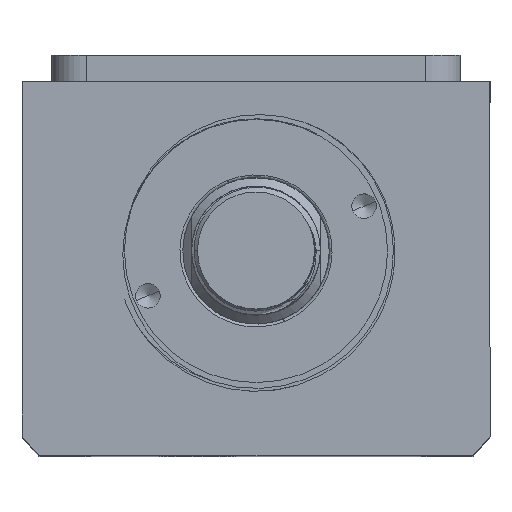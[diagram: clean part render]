
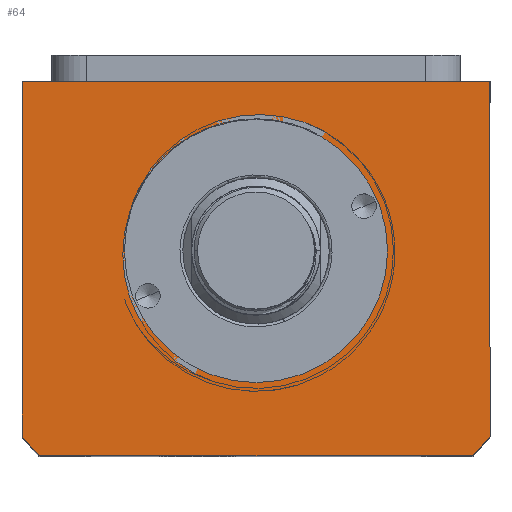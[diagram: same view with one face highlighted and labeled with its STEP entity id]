
A CAD part, top view. The second image highlights one B-rep face of the part: STEP entity #64.
In plain terms, the highlighted planar face has unit normal (0, 0, 1).
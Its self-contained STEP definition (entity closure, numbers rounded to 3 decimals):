
#64 = ADVANCED_FACE ( 'NONE', ( #10630, #2380 ), #4200, .T. ) ;
#337 = EDGE_CURVE ( 'NONE', #2623, #2714, #8283, .T. ) ;
#410 = VERTEX_POINT ( 'NONE', #12184 ) ;
#605 = ORIENTED_EDGE ( 'NONE', *, *, #4922, .T. ) ;
#681 = VERTEX_POINT ( 'NONE', #6568 ) ;
#746 = ORIENTED_EDGE ( 'NONE', *, *, #11252, .T. ) ;
#973 = DIRECTION ( 'NONE',  ( 1., 0., 0. ) ) ;
#1245 = DIRECTION ( 'NONE',  ( 1., 0., 0. ) ) ;
#1436 = ORIENTED_EDGE ( 'NONE', *, *, #3963, .T. ) ;
#1851 = AXIS2_PLACEMENT_3D ( 'NONE', #10524, #4075, #11598 ) ;
#2380 = FACE_OUTER_BOUND ( 'NONE', #4471, .T. ) ;
#2623 = VERTEX_POINT ( 'NONE', #13380 ) ;
#2714 = VERTEX_POINT ( 'NONE', #13415 ) ;
#3418 = CARTESIAN_POINT ( 'NONE',  ( -40., -32., 100. ) ) ;
#3716 = CARTESIAN_POINT ( 'NONE',  ( -40., 32., 100. ) ) ;
#3924 = DIRECTION ( 'NONE',  ( 1., 0., 0. ) ) ;
#3963 = EDGE_CURVE ( 'NONE', #10633, #410, #13226, .T. ) ;
#4005 = VECTOR ( 'NONE', #8529, 1000. ) ;
#4075 = DIRECTION ( 'NONE',  ( 0., 0., 1. ) ) ;
#4158 = LINE ( 'NONE', #5966, #12709 ) ;
#4200 = PLANE ( 'NONE',  #4394 ) ;
#4253 = CARTESIAN_POINT ( 'NONE',  ( 0., 0., 100. ) ) ;
#4394 = AXIS2_PLACEMENT_3D ( 'NONE', #4253, #7021, #3924 ) ;
#4396 = LINE ( 'NONE', #9898, #9463 ) ;
#4471 = EDGE_LOOP ( 'NONE', ( #5619, #10114, #605, #10323, #1436, #746 ) ) ;
#4501 = EDGE_CURVE ( 'NONE', #11482, #2623, #4158, .T. ) ;
#4840 = AXIS2_PLACEMENT_3D ( 'NONE', #9585, #10608, #973 ) ;
#4872 = ORIENTED_EDGE ( 'NONE', *, *, #7044, .F. ) ;
#4922 = EDGE_CURVE ( 'NONE', #2714, #681, #7191, .T. ) ;
#5028 = DIRECTION ( 'NONE',  ( 0., 0., 1. ) ) ;
#5619 = ORIENTED_EDGE ( 'NONE', *, *, #4501, .T. ) ;
#5666 = CARTESIAN_POINT ( 'NONE',  ( 0., 3., 100. ) ) ;
#5966 = CARTESIAN_POINT ( 'NONE',  ( -40., 32., 100. ) ) ;
#5977 = CARTESIAN_POINT ( 'NONE',  ( -22.5, 3., 100. ) ) ;
#6094 = VERTEX_POINT ( 'NONE', #5977 ) ;
#6568 = CARTESIAN_POINT ( 'NONE',  ( 37.094, -32., 100. ) ) ;
#6737 = DIRECTION ( 'NONE',  ( 1., 0., 0. ) ) ;
#6846 = VECTOR ( 'NONE', #1245, 1000. ) ;
#7021 = DIRECTION ( 'NONE',  ( 0., 0., 1. ) ) ;
#7044 = EDGE_CURVE ( 'NONE', #8038, #6094, #9145, .T. ) ;
#7056 = AXIS2_PLACEMENT_3D ( 'NONE', #11490, #5028, #12532 ) ;
#7191 = LINE ( 'NONE', #3418, #6846 ) ;
#7428 = CARTESIAN_POINT ( 'NONE',  ( 40., -28.639, 100. ) ) ;
#8038 = VERTEX_POINT ( 'NONE', #13058 ) ;
#8283 = CIRCLE ( 'NONE', #4840, 51. ) ;
#8529 = DIRECTION ( 'NONE',  ( 0., 1., 0. ) ) ;
#8772 = CIRCLE ( 'NONE', #13750, 51. ) ;
#9145 = CIRCLE ( 'NONE', #7056, 22.5 ) ;
#9264 = EDGE_CURVE ( 'NONE', #6094, #8038, #10638, .T. ) ;
#9463 = VECTOR ( 'NONE', #10995, 1000. ) ;
#9549 = CARTESIAN_POINT ( 'NONE',  ( 40., 32., 100. ) ) ;
#9585 = CARTESIAN_POINT ( 'NONE',  ( 0., 3., 100. ) ) ;
#9898 = CARTESIAN_POINT ( 'NONE',  ( -40., 32., 100. ) ) ;
#10114 = ORIENTED_EDGE ( 'NONE', *, *, #337, .T. ) ;
#10323 = ORIENTED_EDGE ( 'NONE', *, *, #12608, .T. ) ;
#10524 = CARTESIAN_POINT ( 'NONE',  ( 0., 3., 100. ) ) ;
#10608 = DIRECTION ( 'NONE',  ( 0., 0., 1. ) ) ;
#10630 = FACE_BOUND ( 'NONE', #11520, .T. ) ;
#10633 = VERTEX_POINT ( 'NONE', #7428 ) ;
#10638 = CIRCLE ( 'NONE', #1851, 22.5 ) ;
#10995 = DIRECTION ( 'NONE',  ( -1., 0., 0. ) ) ;
#11252 = EDGE_CURVE ( 'NONE', #410, #11482, #4396, .T. ) ;
#11273 = DIRECTION ( 'NONE',  ( 0., -1., 0. ) ) ;
#11308 = ORIENTED_EDGE ( 'NONE', *, *, #9264, .F. ) ;
#11482 = VERTEX_POINT ( 'NONE', #3716 ) ;
#11490 = CARTESIAN_POINT ( 'NONE',  ( 0., 3., 100. ) ) ;
#11520 = EDGE_LOOP ( 'NONE', ( #4872, #11308 ) ) ;
#11598 = DIRECTION ( 'NONE',  ( 1., 0., 0. ) ) ;
#12184 = CARTESIAN_POINT ( 'NONE',  ( 40., 32., 100. ) ) ;
#12532 = DIRECTION ( 'NONE',  ( 1., 0., 0. ) ) ;
#12608 = EDGE_CURVE ( 'NONE', #681, #10633, #8772, .T. ) ;
#12709 = VECTOR ( 'NONE', #11273, 1000. ) ;
#13058 = CARTESIAN_POINT ( 'NONE',  ( 22.5, 3., 100. ) ) ;
#13168 = DIRECTION ( 'NONE',  ( 0., 0., 1. ) ) ;
#13226 = LINE ( 'NONE', #9549, #4005 ) ;
#13380 = CARTESIAN_POINT ( 'NONE',  ( -40., -28.639, 100. ) ) ;
#13415 = CARTESIAN_POINT ( 'NONE',  ( -37.094, -32., 100. ) ) ;
#13750 = AXIS2_PLACEMENT_3D ( 'NONE', #5666, #13168, #6737 ) ;
